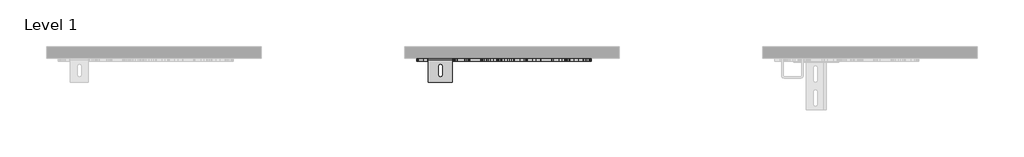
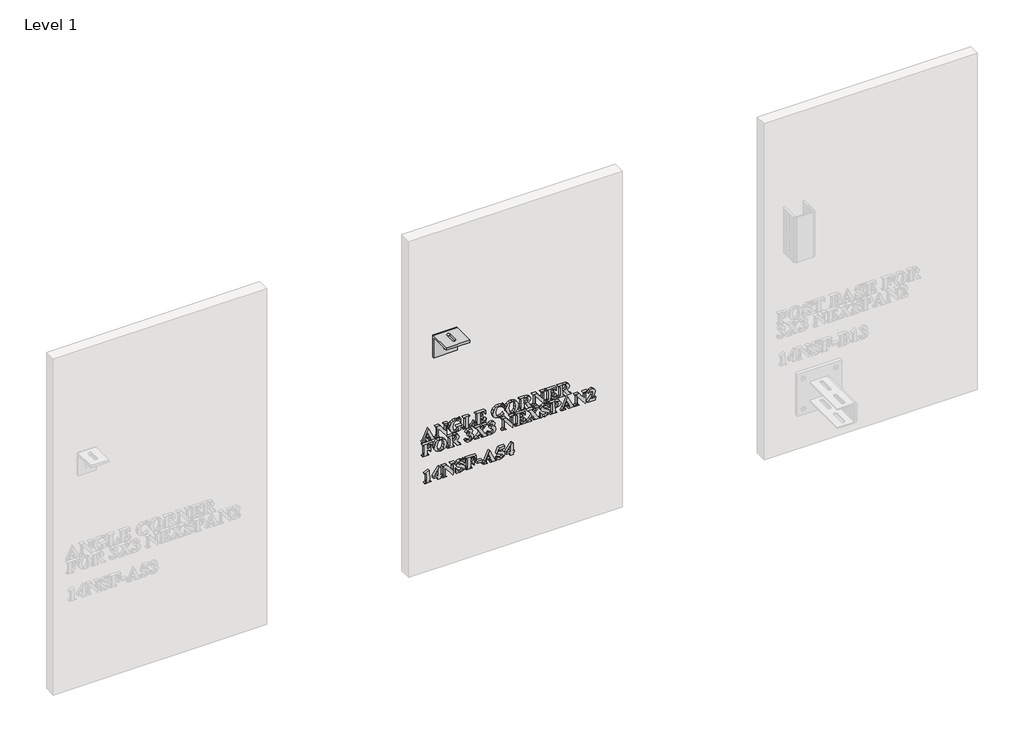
# One storey, part 10 of 21: 3 proxies.
"""IFC4 building model written with IfcOpenShell, lengths in millimetres."""

from ifc_helpers import new_model, si_unit, frame, origin, place, context, project, spatial, polyline, outline, extrude, transform, mapped, element, save
from components import generic_models_b58da347

model = new_model("IFC4")

# Units and contexts
model_context = context("Model", 3, world=origin())
ifc_project = project(units=[si_unit("LENGTHUNIT", "METRE", prefix="MILLI")], contexts=[model_context])

# Site, building, storey
site = spatial("IfcSite", under=ifc_project)
building = spatial("IfcBuilding", under=site)
storey = spatial("IfcBuildingStorey", under=building, Name="Level 1", Elevation=0.0)

# Proxies
placement = place(None, origin())
element("IfcBuildingElementProxy", 1, Name="2\"\" Arial", ObjectType="2\"\" Arial", at=placement, inside=storey, context=model_context, shape_type="SweptSolid", body=[
    extrude(outline(polyline([(615.3485426, 13058.1620487), (608.7003734, 13061.0844731), (604.559118, 13062.4695083), (602.869375, 13061.6246368), (602.0522042, 13056.3061015), (600.2793591, 13056.3061015), (600.2793591, 13081.7076479), (602.0522042, 13081.7076479), (603.4095388, 13078.0096038), (610.9025794, 13073.577491), (653.4647125, 13053.9238409), (612.066009, 13035.1012119), (604.3375124, 13030.6344732), (602.0522042, 13026.0153807), (600.2793591, 13026.0153807), (600.2793591, 13043.7853829), (602.0522042, 13043.7853829), (602.9386268, 13038.6607525), (606.0272554, 13036.8879074), (610.0300072, 13037.9682349), (615.3485426, 13040.3781962), (615.3485426, 13058.1620487)]), holes=[polyline([(618.8942328, 13056.6108092), (618.8942328, 13041.9848371), (635.2376487, 13049.3947756), (618.8942328, 13056.6108092)])]), frame((0.0, -15490.3579358, 0.0), z_axis=(0.0, 1.0, 0.0), x_axis=(0.0, 0.0, 1.0)), (0.0, 0.0, 1.0), 12.7),
    extrude(outline(polyline([(652.5782899, 13101.6798561), (652.5782899, 13083.2588873), (650.8054448, 13083.2588873), (650.2029545, 13086.9223056), (647.0519993, 13090.5718734), (609.1435847, 13090.5718734), (603.693471, 13089.0137088), (602.0522042, 13083.480493), (600.2793591, 13083.480493), (600.2793591, 13101.2089441), (602.0522042, 13100.1147663), (603.5134164, 13095.938885), (609.1435847, 13094.1175637), (642.5506348, 13094.1175637), (599.3929366, 13127.9401243), (599.3929366, 13129.5744659), (641.9412193, 13129.5744659), (647.3774826, 13130.2323577), (649.6627907, 13132.0675294), (650.8054448, 13136.6658464), (652.5782899, 13136.6658464), (652.5782899, 13118.9373952), (650.8054448, 13118.9373952), (648.5616877, 13124.7683936), (641.9412193, 13126.0287757), (621.5119494, 13126.0287757), (652.5782899, 13101.6798561)])), frame((0.0, -15490.3579358, 0.0), z_axis=(0.0, 1.0, 0.0), x_axis=(0.0, 0.0, 1.0)), (0.0, 0.0, 1.0), 12.7),
    extrude(outline(polyline([(653.4647125, 13191.6240449), (653.4647125, 13189.8511997), (650.6600161, 13188.2237833), (649.9190223, 13186.2916592), (651.2625064, 13181.9841996), (652.896848, 13176.7072153), (653.4647125, 13169.975944), (651.4564114, 13158.9285566), (645.4315081, 13149.9414092), (636.4945682, 13143.9736386), (625.7501572, 13141.9843817), (613.9773577, 13144.6020983), (606.6505212, 13150.287668), (601.3943125, 13158.6809816), (599.3929366, 13170.6546113), (600.4663389, 13181.5271379), (603.6449948, 13191.6240449), (615.3485426, 13191.6240449), (618.3402187, 13191.9703037), (620.002261, 13193.750074), (620.6670779, 13197.8290028), (622.439923, 13197.8290028), (622.439923, 13172.1227486), (620.6670779, 13173.5354846), (620.0576624, 13176.9288209), (618.6864775, 13178.7709178), (615.3485426, 13179.2141291), (603.6449948, 13179.2141291), (602.4607896, 13175.4329829), (602.0522042, 13171.8457416), (604.7114719, 13163.1269447), (613.0355337, 13157.8153345), (626.2210692, 13156.1671426), (638.3193521, 13157.6837562), (647.5090609, 13162.8499377), (650.8054448, 13171.9980954), (646.961972, 13182.5866899), (635.7362614, 13189.8511997), (635.7362614, 13191.6240449), (653.4647125, 13191.6240449)])), frame((0.0, -15490.3579358, 0.0), z_axis=(0.0, 1.0, 0.0), x_axis=(0.0, 0.0, 1.0)), (0.0, 0.0, 1.0), 12.7),
    extrude(outline(polyline([(619.7806553, 13250.1279336), (619.7806553, 13248.3550885), (610.1269597, 13244.5600919), (605.3416629, 13239.809421), (603.8250493, 13232.9396462), (603.8250493, 13228.6321866), (604.1713081, 13224.0200192), (605.7848742, 13222.2194734), (610.8333277, 13221.7624118), (643.7140644, 13221.7624118), (648.298531, 13222.1363713), (650.0436754, 13223.5491072), (650.8054448, 13226.8177904), (650.8054448, 13228.8537922), (652.5782899, 13228.8537922), (652.5782899, 13202.2611155), (650.8054448, 13202.2611155), (650.8054448, 13203.9370082), (650.0990768, 13207.2887935), (648.4439597, 13208.9439106), (643.7140644, 13209.352496), (609.1435847, 13209.352496), (604.559118, 13208.9508358), (602.8139736, 13207.4549977), (602.0522042, 13203.9370082), (602.0522042, 13202.2611155), (600.2793591, 13202.2611155), (600.2793591, 13248.3550885), (619.7806553, 13250.1279336)])), frame((0.0, -15490.3579358, 0.0), z_axis=(0.0, 1.0, 0.0), x_axis=(0.0, 0.0, 1.0)), (0.0, 0.0, 1.0), 12.7),
    extrude(outline(polyline([(649.0325997, 13274.0613426), (649.0325997, 13278.4934554), (648.3400821, 13286.5266598), (644.7320653, 13292.2191546), (636.6226839, 13295.3354839), (636.6226839, 13297.1083291), (652.5782899, 13297.1083291), (652.5782899, 13254.5600464), (650.8054448, 13254.5600464), (650.8054448, 13256.235939), (649.7805187, 13260.086337), (647.827619, 13261.4713722), (643.7140644, 13261.6514268), (609.1435847, 13261.6514268), (604.559118, 13261.2497666), (602.8139736, 13259.7539285), (602.0522042, 13256.235939), (602.0522042, 13254.5600464), (600.2793591, 13254.5600464), (600.2793591, 13298.3687111), (616.8859317, 13299.3105351), (606.4427659, 13293.1956045), (602.9386268, 13281.8729414), (602.9386268, 13278.8535645), (603.5549675, 13275.7372352), (605.1339076, 13274.4145266), (610.4039667, 13274.0613426), (625.0991907, 13274.0613426), (624.0950401, 13279.068245), (620.1753904, 13282.1014722), (612.6892749, 13283.8119907), (612.6892749, 13285.5848358), (640.1683741, 13285.5848358), (640.1683741, 13283.8119907), (630.9024884, 13281.3050769), (627.7584584, 13274.0613426), (649.0325997, 13274.0613426)])), frame((0.0, -15490.3579358, 0.0), z_axis=(0.0, 1.0, 0.0), x_axis=(0.0, 0.0, 1.0)), (0.0, 0.0, 1.0), 12.7),
    extrude(outline(polyline([(653.4647125, 13375.9999366), (653.4647125, 13374.2270915), (650.7708189, 13373.0775122), (649.9190223, 13370.986109), (651.2209554, 13366.5816969), (653.4647125, 13355.1967072), (649.8012943, 13341.394831), (639.5035572, 13331.0693933), (625.4731502, 13327.246696), (612.2460636, 13330.7162093), (602.710096, 13340.570735), (599.3929366, 13355.1828569), (601.4220132, 13366.1107849), (607.9663047, 13375.113514), (612.4676693, 13375.113514), (605.0785062, 13366.740976), (602.9386268, 13357.9944784), (605.854126, 13348.5208373), (614.4551948, 13343.1469006), (627.0797911, 13341.4294569), (639.8636664, 13343.7563161), (647.1420266, 13349.490362), (649.9190223, 13358.1052812), (646.2625292, 13368.1675623), (635.7362614, 13374.2270915), (635.7362614, 13375.9999366), (653.4647125, 13375.9999366)])), frame((0.0, -15490.3579358, 0.0), z_axis=(0.0, 1.0, 0.0), x_axis=(0.0, 0.0, 1.0)), (0.0, 0.0, 1.0), 12.7),
    extrude(outline(polyline([(653.4647125, 13411.11058), (651.8788471, 13400.5687305), (646.1794271, 13391.8239642), (637.4606302, 13385.9392957), (626.8166344, 13383.9777396), (617.1733265, 13385.4839654), (608.9358294, 13390.0026429), (601.7786598, 13399.2200524), (599.3929366, 13411.6091927), (601.8929252, 13423.9671697), (609.392891, 13433.1741915), (626.8581854, 13438.9359381), (637.4969874, 13437.0038139), (646.2002026, 13431.2074414), (651.884041, 13422.3189777), (653.4647125, 13411.11058)]), holes=[polyline([(650.8054448, 13411.5676416), (648.6863409, 13418.1811849), (641.4356814, 13422.9041551), (625.9440622, 13424.7531772), (611.8444034, 13422.938781), (603.9774032, 13417.869552), (602.0522042, 13411.4983899), (606.5120177, 13402.6757154), (626.2487699, 13398.1605005), (643.4924587, 13401.0829248), (648.9771983, 13405.5046499), (650.8054448, 13411.5676416)])]), frame((0.0, -15490.3579358, 0.0), z_axis=(0.0, 1.0, 0.0), x_axis=(0.0, 0.0, 1.0)), (0.0, 0.0, 1.0), 12.7),
    extrude(outline(polyline([(624.2127681, 13462.8693471), (624.2127681, 13466.3042345), (600.2793591, 13483.0908617), (600.2793591, 13499.2126719), (602.0522042, 13499.2126719), (603.3956884, 13495.9439887), (607.7723998, 13492.7999587), (625.4592998, 13480.3900429), (628.9911397, 13487.3429199), (638.395529, 13491.2348689), (646.5326111, 13488.4717236), (651.2902072, 13481.3387921), (652.5782899, 13467.5369159), (652.5782899, 13443.3680509), (650.8054448, 13443.3680509), (650.2029545, 13448.1533476), (648.5963136, 13449.9469683), (643.7140644, 13450.4594313), (609.1435847, 13450.4594313), (604.2751858, 13449.9469683), (602.6685449, 13448.1741232), (602.0522042, 13443.3680509), (600.2793591, 13443.3680509), (600.2793591, 13469.9607275), (602.0522042, 13469.9607275), (602.6546946, 13465.1754308), (604.2613354, 13463.3818101), (609.1435847, 13462.8693471), (624.2127681, 13462.8693471)]), holes=[polyline([(649.9190223, 13462.8693471), (649.9190223, 13466.9967521), (647.0450741, 13476.0271819), (638.160073, 13478.8249531), (631.4288018, 13477.3014143), (627.862336, 13473.1116827), (626.8720358, 13465.0715531), (626.8720358, 13462.8693471), (649.9190223, 13462.8693471)])]), frame((0.0, -15490.3579358, 0.0), z_axis=(0.0, 1.0, 0.0), x_axis=(0.0, 0.0, 1.0)), (0.0, 0.0, 1.0), 12.7),
    extrude(outline(polyline([(652.5782899, 13518.2984576), (652.5782899, 13499.8774888), (650.8054448, 13499.8774888), (650.2029545, 13503.540907), (647.0519993, 13507.1904749), (609.1435847, 13507.1904749), (603.693471, 13505.6323103), (602.0522042, 13500.0990945), (600.2793591, 13500.0990945), (600.2793591, 13517.8275456), (602.0522042, 13516.7333677), (603.5134164, 13512.5574865), (609.1435847, 13510.7361651), (642.5506348, 13510.7361651), (599.3929366, 13544.5587258), (599.3929366, 13546.1930674), (641.9412193, 13546.1930674), (647.3774826, 13546.8509591), (649.6627907, 13548.6861308), (650.8054448, 13553.2844478), (652.5782899, 13553.2844478), (652.5782899, 13535.5559967), (650.8054448, 13535.5559967), (648.5616877, 13541.3869951), (641.9412193, 13542.6473772), (621.5119494, 13542.6473772), (652.5782899, 13518.2984576)])), frame((0.0, -15490.3579358, 0.0), z_axis=(0.0, 1.0, 0.0), x_axis=(0.0, 0.0, 1.0)), (0.0, 0.0, 1.0), 12.7),
    extrude(outline(polyline([(649.0325997, 13577.2178569), (649.0325997, 13581.6499696), (648.3400821, 13589.6831741), (644.7320653, 13595.3756689), (636.6226839, 13598.4919982), (636.6226839, 13600.2648433), (652.5782899, 13600.2648433), (652.5782899, 13557.7165606), (650.8054448, 13557.7165606), (650.8054448, 13559.3924533), (649.7805187, 13563.2428513), (647.827619, 13564.6278865), (643.7140644, 13564.8079411), (609.1435847, 13564.8079411), (604.559118, 13564.4062809), (602.8139736, 13562.9104428), (602.0522042, 13559.3924533), (602.0522042, 13557.7165606), (600.2793591, 13557.7165606), (600.2793591, 13601.5252254), (616.8859317, 13602.4670494), (606.4427659, 13596.3521188), (602.9386268, 13585.0294556), (602.9386268, 13582.0100788), (603.5549675, 13578.8937495), (605.1339076, 13577.5710409), (610.4039667, 13577.2178569), (625.0991907, 13577.2178569), (624.0950401, 13582.2247593), (620.1753904, 13585.2579865), (612.6892749, 13586.968505), (612.6892749, 13588.7413501), (640.1683741, 13588.7413501), (640.1683741, 13586.968505), (630.9024884, 13584.4615912), (627.7584584, 13577.2178569), (649.0325997, 13577.2178569)])), frame((0.0, -15490.3579358, 0.0), z_axis=(0.0, 1.0, 0.0), x_axis=(0.0, 0.0, 1.0)), (0.0, 0.0, 1.0), 12.7),
    extrude(outline(polyline([(624.2127681, 13628.6303651), (624.2127681, 13632.0652525), (600.2793591, 13648.8518797), (600.2793591, 13664.9736899), (602.0522042, 13664.9736899), (603.3956884, 13661.7050068), (607.7723998, 13658.5609768), (625.4592998, 13646.151061), (628.9911397, 13653.1039379), (638.395529, 13656.9958869), (646.5326111, 13654.2327416), (651.2902072, 13647.0998101), (652.5782899, 13633.2979339), (652.5782899, 13609.1290689), (650.8054448, 13609.1290689), (650.2029545, 13613.9143657), (648.5963136, 13615.7079863), (643.7140644, 13616.2204493), (609.1435847, 13616.2204493), (604.2751858, 13615.7079863), (602.6685449, 13613.9351412), (602.0522042, 13609.1290689), (600.2793591, 13609.1290689), (600.2793591, 13635.7217456), (602.0522042, 13635.7217456), (602.6546946, 13630.9364488), (604.2613354, 13629.1428282), (609.1435847, 13628.6303651), (624.2127681, 13628.6303651)]), holes=[polyline([(649.9190223, 13628.6303651), (649.9190223, 13632.7577702), (647.0450741, 13641.7882), (638.160073, 13644.5859711), (631.4288018, 13643.0624324), (627.862336, 13638.8727008), (626.8720358, 13630.8325712), (626.8720358, 13628.6303651), (649.9190223, 13628.6303651)])]), frame((0.0, -15490.3579358, 0.0), z_axis=(0.0, 1.0, 0.0), x_axis=(0.0, 0.0, 1.0)), (0.0, 0.0, 1.0), 12.7),
    extrude(outline(polyline([(584.9362614, 13047.1371682), (584.9362614, 13051.569281), (584.3406962, 13060.1287988), (580.6288018, 13066.5415119), (572.5263456, 13069.2977321), (572.5263456, 13071.0705772), (588.4819516, 13071.0705772), (588.4819516, 13027.6358719), (586.7091065, 13027.6358719), (586.7091065, 13029.3117646), (586.0027385, 13032.6635499), (584.3476214, 13034.318667), (579.617726, 13034.7272524), (545.0472463, 13034.7272524), (540.4627797, 13034.3255922), (538.7176353, 13032.8297541), (537.9558659, 13029.3117646), (537.9558659, 13027.6358719), (536.1830208, 13027.6358719), (536.1830208, 13054.2285486), (537.9558659, 13054.2285486), (537.9558659, 13052.5665063), (538.6622338, 13049.2216462), (540.317351, 13047.5596039), (545.0472463, 13047.1371682), (561.0028523, 13047.1371682), (561.0028523, 13048.9100133), (558.5859658, 13055.8213392), (548.5929366, 13059.547084), (548.5929366, 13061.3199291), (576.9584584, 13061.3199291), (576.9584584, 13059.547084), (569.5762205, 13057.6911367), (565.6981218, 13054.2077731), (564.5485426, 13048.9100133), (564.5485426, 13047.1371682), (584.9362614, 13047.1371682)])), frame((0.0, -15490.3579358, 0.0), z_axis=(0.0, 1.0, 0.0), x_axis=(0.0, 0.0, 1.0)), (0.0, 0.0, 1.0), 12.7),
    extrude(outline(polyline([(589.3683741, 13103.521953), (587.7825088, 13092.9801035), (582.0830888, 13084.2353372), (573.3642919, 13078.3506687), (562.720296, 13076.3891125), (553.0769882, 13077.8953384), (544.839491, 13082.4140158), (537.6823214, 13091.6314254), (535.2965982, 13104.0205657), (537.7965868, 13116.3785426), (545.2965527, 13125.5855644), (562.7618471, 13131.347311), (573.4006491, 13129.4151869), (582.1038643, 13123.6188144), (587.7877027, 13114.7303507), (589.3683741, 13103.521953)]), holes=[polyline([(586.7091065, 13103.9790146), (584.5900026, 13110.5925579), (577.339343, 13115.3155281), (561.8477238, 13117.1645501), (547.7480651, 13115.350154), (539.8810649, 13110.280925), (537.9558659, 13103.9097628), (542.4156794, 13095.0870883), (562.1524316, 13090.5718734), (579.3961204, 13093.4942978), (584.88086, 13097.9160228), (586.7091065, 13103.9790146)])]), frame((0.0, -15490.3579358, 0.0), z_axis=(0.0, 1.0, 0.0), x_axis=(0.0, 0.0, 1.0)), (0.0, 0.0, 1.0), 12.7),
    extrude(outline(polyline([(560.1164298, 13155.28072), (560.1164298, 13158.7156075), (536.1830208, 13175.5022346), (536.1830208, 13191.6240449), (537.9558659, 13191.6240449), (539.2993501, 13188.3553617), (543.6760614, 13185.2113317), (561.3629615, 13172.8014159), (564.8948014, 13179.7542928), (574.2991907, 13183.6462418), (582.4362727, 13180.8830965), (587.1938688, 13173.750165), (588.4819516, 13159.9482888), (588.4819516, 13135.7794238), (586.7091065, 13135.7794238), (586.1066161, 13140.5647206), (584.4999753, 13142.3583412), (579.617726, 13142.8708043), (545.0472463, 13142.8708043), (540.1788474, 13142.3583412), (538.5722066, 13140.5854961), (537.9558659, 13135.7794238), (536.1830208, 13135.7794238), (536.1830208, 13162.3721005), (537.9558659, 13162.3721005), (538.5583562, 13157.5868037), (540.1649971, 13155.7931831), (545.0472463, 13155.28072), (560.1164298, 13155.28072)]), holes=[polyline([(585.8226839, 13155.28072), (585.8226839, 13159.4081251), (582.9487358, 13168.4385549), (574.0637347, 13171.2363261), (567.3324634, 13169.7127873), (563.7659977, 13165.5230557), (562.7756975, 13157.4829261), (562.7756975, 13155.28072), (585.8226839, 13155.28072)])]), frame((0.0, -15490.3579358, 0.0), z_axis=(0.0, 1.0, 0.0), x_axis=(0.0, 0.0, 1.0)), (0.0, 0.0, 1.0), 12.7),
    extrude(outline(polyline([(564.5485426, 13220.8759892), (558.3782106, 13232.7665168), (548.6206373, 13236.8315952), (542.8796662, 13234.7263417), (540.6151335, 13229.6848134), (543.7314628, 13222.4272287), (547.1524999, 13217.9258641), (547.706514, 13215.4605014), (546.2176011, 13212.4341994), (542.6234346, 13211.1253411), (537.9004645, 13213.3829485), (535.2965982, 13223.3275016), (536.8114805, 13232.5033601), (541.3561274, 13239.6155161), (548.0648919, 13244.1757446), (556.0721269, 13245.6958208), (564.6177943, 13242.8564985), (570.3518402, 13234.6155388), (574.5554222, 13241.0005513), (579.5207736, 13243.0365531), (586.4182491, 13239.4008356), (589.3683741, 13230.1695757), (586.9237869, 13220.2180975), (579.105263, 13213.7846088), (584.0498388, 13223.1751477), (581.6883537, 13229.1238741), (576.0304847, 13231.5130599), (571.3282901, 13230.2319023), (567.8795523, 13227.1917499), (564.5485426, 13220.8759892)])), frame((0.0, -15490.3579358, 0.0), z_axis=(0.0, 1.0, 0.0), x_axis=(0.0, 0.0, 1.0)), (0.0, 0.0, 1.0), 12.7),
    extrude(outline(polyline([(566.5845444, 13283.2302759), (578.4681468, 13292.7177673), (584.2021927, 13297.7315949), (586.1481672, 13300.6955703), (586.7091065, 13304.3520634), (588.4819516, 13304.3520634), (588.4819516, 13284.9200189), (586.7091065, 13284.9200189), (586.2243441, 13288.382607), (584.88086, 13290.1000507), (583.0110624, 13290.6956159), (575.9473826, 13286.457408), (569.5069687, 13281.3050769), (579.146814, 13274.9754659), (584.3406962, 13272.0530415), (586.0304392, 13272.939464), (586.7091065, 13277.3577265), (588.4819516, 13277.3577265), (588.4819516, 13251.8176766), (586.7091065, 13251.8176766), (585.9334867, 13254.5877471), (584.2021927, 13256.6237489), (579.0775623, 13260.363344), (559.4377625, 13273.2718725), (546.8616425, 13263.2026663), (539.7425613, 13256.000483), (537.9558659, 13250.6126959), (536.1830208, 13250.6126959), (536.1830208, 13270.9588636), (537.9558659, 13270.9588636), (538.1774715, 13267.6486294), (539.4655543, 13264.9131848), (541.4046036, 13263.9921364), (547.000146, 13267.5655273), (556.5291885, 13275.1832211), (545.781315, 13282.2469009), (540.4627797, 13285.2108763), (538.8422884, 13284.3244538), (537.9558659, 13280.404804), (536.1830208, 13280.404804), (536.1830208, 13305.6955476), (537.9558659, 13305.6955476), (539.2993501, 13302.0944559), (545.6428115, 13296.9836759), (566.5845444, 13283.2302759)])), frame((0.0, -15490.3579358, 0.0), z_axis=(0.0, 1.0, 0.0), x_axis=(0.0, 0.0, 1.0)), (0.0, 0.0, 1.0), 12.7),
    extrude(outline(polyline([(564.5485426, 13316.6096253), (558.3782106, 13328.5001529), (548.6206373, 13332.5652313), (542.8796662, 13330.4599777), (540.6151335, 13325.4184495), (543.7314628, 13318.1608648), (547.1524999, 13313.6595002), (547.706514, 13311.1941375), (546.2176011, 13308.1678355), (542.6234346, 13306.8589772), (537.9004645, 13309.1165846), (535.2965982, 13319.0611377), (536.8114805, 13328.2369962), (541.3561274, 13335.3491522), (548.0648919, 13339.9093807), (556.0721269, 13341.4294569), (564.6177943, 13338.5901346), (570.3518402, 13330.3491749), (574.5554222, 13336.7341874), (579.5207736, 13338.7701892), (586.4182491, 13335.1344717), (589.3683741, 13325.9032118), (586.9237869, 13315.9517336), (579.105263, 13309.5182448), (584.0498388, 13318.9087838), (581.6883537, 13324.8575102), (576.0304847, 13327.246696), (571.3282901, 13325.9655384), (567.8795523, 13322.925386), (564.5485426, 13316.6096253)])), frame((0.0, -15490.3579358, 0.0), z_axis=(0.0, 1.0, 0.0), x_axis=(0.0, 0.0, 1.0)), (0.0, 0.0, 1.0), 12.7),
    extrude(outline(polyline([(588.4819516, 13385.3350741), (588.4819516, 13366.9141054), (586.7091065, 13366.9141054), (586.1066161, 13370.5775236), (582.955661, 13374.2270915), (545.0472463, 13374.2270915), (539.5971326, 13372.6689268), (537.9558659, 13367.135711), (536.1830208, 13367.135711), (536.1830208, 13384.8641621), (537.9558659, 13383.7699843), (539.4170781, 13379.594103), (545.0472463, 13377.7727817), (578.4542964, 13377.7727817), (535.2965982, 13411.5953424), (535.2965982, 13413.2296839), (577.8448809, 13413.2296839), (583.2811442, 13413.8875757), (585.5664524, 13415.7227474), (586.7091065, 13420.3210644), (588.4819516, 13420.3210644), (588.4819516, 13402.5926133), (586.7091065, 13402.5926133), (584.4653494, 13408.4236116), (577.8448809, 13409.6839937), (557.4156111, 13409.6839937), (588.4819516, 13385.3350741)])), frame((0.0, -15490.3579358, 0.0), z_axis=(0.0, 1.0, 0.0), x_axis=(0.0, 0.0, 1.0)), (0.0, 0.0, 1.0), 12.7),
    extrude(outline(polyline([(584.9362614, 13444.2544734), (584.9362614, 13448.6865862), (584.2437437, 13456.7197906), (580.6357269, 13462.4122855), (572.5263456, 13465.5286148), (572.5263456, 13467.3014599), (588.4819516, 13467.3014599), (588.4819516, 13424.7531772), (586.7091065, 13424.7531772), (586.7091065, 13426.4290698), (585.6841804, 13430.2794678), (583.7312807, 13431.664503), (579.617726, 13431.8445576), (545.0472463, 13431.8445576), (540.4627797, 13431.4428974), (538.7176353, 13429.9470593), (537.9558659, 13426.4290698), (537.9558659, 13424.7531772), (536.1830208, 13424.7531772), (536.1830208, 13468.561842), (552.7895933, 13469.5036659), (542.3464276, 13463.3887353), (538.8422884, 13452.0660722), (538.8422884, 13449.0466954), (539.4586291, 13445.9303661), (541.0375693, 13444.6076574), (546.3076284, 13444.2544734), (561.0028523, 13444.2544734), (559.9987018, 13449.2613758), (556.079052, 13452.294603), (548.5929366, 13454.0051215), (548.5929366, 13455.7779666), (576.0720358, 13455.7779666), (576.0720358, 13454.0051215), (566.80615, 13451.4982077), (563.66212, 13444.2544734), (584.9362614, 13444.2544734)])), frame((0.0, -15490.3579358, 0.0), z_axis=(0.0, 1.0, 0.0), x_axis=(0.0, 0.0, 1.0)), (0.0, 0.0, 1.0), 12.7),
    extrude(outline(polyline([(566.5845444, 13507.4951827), (578.4681468, 13516.9826741), (584.2021927, 13521.9965017), (586.1481672, 13524.9604771), (586.7091065, 13528.6169701), (588.4819516, 13528.6169701), (588.4819516, 13509.1849257), (586.7091065, 13509.1849257), (586.2243441, 13512.6475138), (584.88086, 13514.3649575), (583.0110624, 13514.9605226), (575.9473826, 13510.7223148), (569.5069687, 13505.5699837), (579.146814, 13499.2403726), (584.3406962, 13496.3179482), (586.0304392, 13497.2043708), (586.7091065, 13501.6226332), (588.4819516, 13501.6226332), (588.4819516, 13476.0825833), (586.7091065, 13476.0825833), (585.9334867, 13478.8526538), (584.2021927, 13480.8886556), (579.0775623, 13484.6282508), (559.4377625, 13497.5367793), (546.8616425, 13487.467573), (539.7425613, 13480.2653898), (537.9558659, 13474.8776027), (536.1830208, 13474.8776027), (536.1830208, 13495.2237704), (537.9558659, 13495.2237704), (538.1774715, 13491.9135362), (539.4655543, 13489.1780916), (541.4046036, 13488.2570431), (547.000146, 13491.8304341), (556.5291885, 13499.4481279), (545.781315, 13506.5118076), (540.4627797, 13509.4757831), (538.8422884, 13508.5893605), (537.9558659, 13504.6697108), (536.1830208, 13504.6697108), (536.1830208, 13529.9604543), (537.9558659, 13529.9604543), (539.2993501, 13526.3593627), (545.6428115, 13521.2485826), (566.5845444, 13507.4951827)])), frame((0.0, -15490.3579358, 0.0), z_axis=(0.0, 1.0, 0.0), x_axis=(0.0, 0.0, 1.0)), (0.0, 0.0, 1.0), 12.7),
    extrude(outline(polyline([(589.3683741, 13569.2400539), (589.3683741, 13567.4672087), (586.4320994, 13566.3591806), (585.8226839, 13564.724839), (587.0622905, 13560.9644683), (588.7589586, 13556.4146275), (589.3683741, 13551.3315481), (585.040139, 13539.3994695), (574.548497, 13534.6695742), (567.9418789, 13536.3039157), (562.5056156, 13540.9853349), (556.5984403, 13551.8301608), (552.5541373, 13559.5863582), (549.2854542, 13562.8481162), (545.7259136, 13563.9215185), (540.2896503, 13561.2553257), (537.9558659, 13554.0877683), (542.2702507, 13543.2360171), (554.7978944, 13536.4424193), (554.7978944, 13534.6695742), (535.2965982, 13534.6695742), (535.2965982, 13536.4424193), (537.9697162, 13538.2637406), (538.8422884, 13540.4036201), (537.9835666, 13543.464548), (535.8575375, 13549.0116141), (535.2965982, 13553.6999584), (539.9780173, 13566.7608408), (551.1691021, 13571.8993215), (560.2687837, 13569.2816049), (568.7174987, 13556.5946821), (573.2050128, 13547.4534495), (576.7645534, 13543.5337997), (579.8254813, 13542.6473772), (584.6246284, 13545.0711888), (586.7091065, 13551.6501063), (582.5747763, 13561.6639111), (571.639923, 13567.4672087), (571.639923, 13569.2400539), (589.3683741, 13569.2400539)])), frame((0.0, -15490.3579358, 0.0), z_axis=(0.0, 1.0, 0.0), x_axis=(0.0, 0.0, 1.0)), (0.0, 0.0, 1.0), 12.7),
    extrude(outline(polyline([(560.1164298, 13594.946308), (561.030553, 13608.2010953), (565.9266526, 13617.3354027), (574.5623474, 13620.6525621), (584.5069004, 13615.6041087), (588.4819516, 13598.9490598), (588.4819516, 13575.4450118), (586.7091065, 13575.4450118), (586.1066161, 13580.2303085), (584.4999753, 13582.0239292), (579.617726, 13582.5363922), (545.0472463, 13582.5363922), (540.1788474, 13582.0239292), (538.5722066, 13580.2510841), (537.9558659, 13575.4450118), (536.1830208, 13575.4450118), (536.1830208, 13602.0376884), (537.9558659, 13602.0376884), (538.5583562, 13597.266242), (540.1649971, 13595.458771), (545.0472463, 13594.946308), (560.1164298, 13594.946308)]), holes=[polyline([(585.8226839, 13594.946308), (585.8226839, 13596.7330035), (583.0664638, 13605.3548479), (574.3822928, 13608.2426463), (565.5457679, 13605.3548479), (562.6925953, 13597.1346637), (562.7756975, 13594.946308), (585.8226839, 13594.946308)])]), frame((0.0, -15490.3579358, 0.0), z_axis=(0.0, 1.0, 0.0), x_axis=(0.0, 0.0, 1.0)), (0.0, 0.0, 1.0), 12.7),
    extrude(outline(polyline([(551.2522042, 13654.7244291), (544.604035, 13657.6468535), (540.4627797, 13659.0318887), (538.7730367, 13658.1870172), (537.9558659, 13652.8684819), (536.1830208, 13652.8684819), (536.1830208, 13678.2700283), (537.9558659, 13678.2700283), (539.3132004, 13674.5719842), (546.8062411, 13670.1398714), (589.3683741, 13650.4862213), (547.9696707, 13631.6635923), (540.241174, 13627.1968537), (537.9558659, 13622.5777611), (536.1830208, 13622.5777611), (536.1830208, 13640.3477633), (537.9558659, 13640.3477633), (538.8422884, 13635.2231329), (541.930917, 13633.4502878), (545.9336689, 13634.5306153), (551.2522042, 13636.9405766), (551.2522042, 13654.7244291)]), holes=[polyline([(554.7978944, 13653.1731897), (554.7978944, 13638.5472175), (571.1413103, 13645.957156), (554.7978944, 13653.1731897)])]), frame((0.0, -15490.3579358, 0.0), z_axis=(0.0, 1.0, 0.0), x_axis=(0.0, 0.0, 1.0)), (0.0, 0.0, 1.0), 12.7),
    extrude(outline(polyline([(588.4819516, 13698.2422365), (588.4819516, 13679.8212678), (586.7091065, 13679.8212678), (586.1066161, 13683.484686), (582.955661, 13687.1342539), (545.0472463, 13687.1342539), (539.5971326, 13685.5760892), (537.9558659, 13680.0428734), (536.1830208, 13680.0428734), (536.1830208, 13697.7713245), (537.9558659, 13696.6771467), (539.4170781, 13692.5012654), (545.0472463, 13690.6799441), (578.4542964, 13690.6799441), (535.2965982, 13724.5025047), (535.2965982, 13726.1368463), (577.8448809, 13726.1368463), (583.2811442, 13726.7947381), (585.5664524, 13728.6299098), (586.7091065, 13733.2282268), (588.4819516, 13733.2282268), (588.4819516, 13715.4997757), (586.7091065, 13715.4997757), (584.4653494, 13721.330774), (577.8448809, 13722.5911561), (557.4156111, 13722.5911561), (588.4819516, 13698.2422365)])), frame((0.0, -15490.3579358, 0.0), z_axis=(0.0, 1.0, 0.0), x_axis=(0.0, 0.0, 1.0)), (0.0, 0.0, 1.0), 12.7),
    extrude(outline(polyline([(536.1830208, 13767.3139441), (551.2522042, 13768.9344354), (548.1635756, 13766.836107), (547.1247992, 13764.8001052), (546.8200914, 13759.446944), (546.8200914, 13748.2835599), (566.3906394, 13765.0009353), (576.6260499, 13767.7987065), (582.5609259, 13765.9081334), (587.5470528, 13760.6796253), (589.3683741, 13753.2973875), (585.864235, 13743.3043582), (574.548497, 13738.2836054), (579.0152357, 13742.4525615), (580.5041486, 13748.0342535), (577.8241054, 13754.5092933), (571.0997593, 13757.1616358), (559.7286199, 13754.0591569), (536.1830208, 13735.8874945), (536.1830208, 13767.3139441)])), frame((0.0, -15490.3579358, 0.0), z_axis=(0.0, 1.0, 0.0), x_axis=(0.0, 0.0, 1.0)), (0.0, 0.0, 1.0), 12.7),
])
element("IfcBuildingElementProxy", 2, Name="2\"\" Arial", ObjectType="2\"\" Arial", at=placement, inside=storey, context=model_context, shape_type="SweptSolid", body=[
    extrude(outline(polyline([(463.8692305, 13056.4026674), (455.0050049, 13036.6451396), (453.2321598, 13037.3099565), (454.4648412, 13041.8667225), (453.827725, 13043.9442753), (452.3111114, 13045.1769567), (447.9136245, 13045.5093652), (421.3209478, 13045.5093652), (415.2544934, 13044.9899769), (413.2046413, 13043.0024514), (412.4567222, 13036.6451396), (410.6838771, 13036.6451396), (410.6838771, 13065.0106614), (412.4567222, 13063.77798), (413.273893, 13059.3043162), (415.3791466, 13057.4691445), (421.3209478, 13057.0328584), (463.8692305, 13056.4026674)])), frame((0.0, -15490.3579358, 0.0), z_axis=(0.0, 1.0, 0.0), x_axis=(0.0, 0.0, 1.0)), (0.0, 0.0, 1.0), 12.7),
    extrude(outline(polyline([(430.1851733, 13073.874887), (422.2073703, 13073.874887), (422.2073703, 13092.4897607), (410.6838771, 13092.4897607), (410.6838771, 13104.0132539), (422.2073703, 13104.0132539), (422.2073703, 13108.4453667), (430.1851733, 13108.4453667), (430.1851733, 13104.0132539), (463.8692305, 13104.0132539), (463.8692305, 13098.9024738), (430.1851733, 13073.874887)]), holes=[polyline([(430.1851733, 13076.5618553), (451.6116686, 13092.4897607), (430.1851733, 13092.4897607), (430.1851733, 13076.5618553)])]), frame((0.0, -15490.3579358, 0.0), z_axis=(0.0, 1.0, 0.0), x_axis=(0.0, 0.0, 1.0)), (0.0, 0.0, 1.0), 12.7),
    extrude(outline(polyline([(462.9828079, 13131.0768426), (462.9828079, 13112.6558738), (461.2099628, 13112.6558738), (460.6074725, 13116.319292), (457.4565173, 13119.9688599), (419.5481027, 13119.9688599), (414.097989, 13118.4106952), (412.4567222, 13112.8774794), (410.6838771, 13112.8774794), (410.6838771, 13130.6059306), (412.4567222, 13129.5117527), (413.9179344, 13125.3358715), (419.5481027, 13123.5145501), (452.9551528, 13123.5145501), (409.7974546, 13157.3371108), (409.7974546, 13158.9714524), (452.3457373, 13158.9714524), (457.7820006, 13159.6293441), (460.0673087, 13161.4645158), (461.2099628, 13166.0628328), (462.9828079, 13166.0628328), (462.9828079, 13148.3343817), (461.2099628, 13148.3343817), (458.9662057, 13154.1653801), (452.3457373, 13155.4257622), (431.9164674, 13155.4257622), (462.9828079, 13131.0768426)])), frame((0.0, -15490.3579358, 0.0), z_axis=(0.0, 1.0, 0.0), x_axis=(0.0, 0.0, 1.0)), (0.0, 0.0, 1.0), 12.7),
    extrude(outline(polyline([(463.8692305, 13206.8382704), (463.8692305, 13205.0654253), (460.9329558, 13203.9573971), (460.3235403, 13202.3230555), (461.5631468, 13198.5626848), (463.259815, 13194.0128441), (463.8692305, 13188.9297647), (459.5409954, 13176.9976861), (449.0493534, 13172.2677907), (442.4427353, 13173.9021323), (437.0064719, 13178.5835514), (431.0992966, 13189.4283774), (427.0549937, 13197.1845748), (423.7863105, 13200.4463328), (420.2267699, 13201.5197351), (414.7905066, 13198.8535422), (412.4567222, 13191.6859848), (416.771107, 13180.8342337), (429.2987508, 13174.0406358), (429.2987508, 13172.2677907), (409.7974546, 13172.2677907), (409.7974546, 13174.0406358), (412.4705726, 13175.8619572), (413.3431448, 13178.0018366), (412.4844229, 13181.0627645), (410.3583938, 13186.6098307), (409.7974546, 13191.298175), (414.4788737, 13204.3590573), (425.6699585, 13209.4975381), (434.76964, 13206.8798215), (443.218355, 13194.1928986), (447.7058692, 13185.051666), (451.2654098, 13181.1320163), (454.3263377, 13180.2455937), (459.1254848, 13182.6694054), (461.2099628, 13189.2483228), (457.0756326, 13199.2621276), (446.1407794, 13205.0654253), (446.1407794, 13206.8382704), (463.8692305, 13206.8382704)])), frame((0.0, -15490.3579358, 0.0), z_axis=(0.0, 1.0, 0.0), x_axis=(0.0, 0.0, 1.0)), (0.0, 0.0, 1.0), 12.7),
    extrude(outline(polyline([(459.4371177, 13233.4309471), (459.4371177, 13237.8630599), (458.8415526, 13246.4225777), (455.1296581, 13252.8352909), (447.0272019, 13255.591511), (447.0272019, 13257.3643561), (462.9828079, 13257.3643561), (462.9828079, 13213.9296509), (461.2099628, 13213.9296509), (461.2099628, 13215.6055435), (460.5035948, 13218.9573288), (458.8484777, 13220.6124459), (454.1185824, 13221.0210313), (419.5481027, 13221.0210313), (414.963636, 13220.6193711), (413.2184916, 13219.123533), (412.4567222, 13215.6055435), (412.4567222, 13213.9296509), (410.6838771, 13213.9296509), (410.6838771, 13240.5223276), (412.4567222, 13240.5223276), (412.4567222, 13238.8602853), (413.1630902, 13235.5154252), (414.8182073, 13233.8533829), (419.5481027, 13233.4309471), (435.5037087, 13233.4309471), (435.5037087, 13235.2037922), (433.0868222, 13242.1151181), (423.0937929, 13245.8408629), (423.0937929, 13247.613708), (451.4593147, 13247.613708), (451.4593147, 13245.8408629), (444.0770768, 13243.9849157), (440.1989782, 13240.501552), (439.0493989, 13235.2037922), (439.0493989, 13233.4309471), (459.4371177, 13233.4309471)])), frame((0.0, -15490.3579358, 0.0), z_axis=(0.0, 1.0, 0.0), x_axis=(0.0, 0.0, 1.0)), (0.0, 0.0, 1.0), 12.7),
    extrude(outline(polyline([(13283.0706103, -15490.3579358), (13260.9100464, -15490.3579358), (13260.9100464, -15477.6579358), (13283.0706103, -15477.6579358), (13283.0706103, -15490.3579358)])), frame((0.0, 0.0, 424.866638), z_axis=(0.0, 0.0, 1.0), x_axis=(1.0, 0.0, 0.0)), (0.0, 0.0, 1.0), 7.977803),
    extrude(outline(polyline([(425.7530606, 13318.9153224), (419.1048914, 13321.8377468), (414.963636, 13323.222782), (413.273893, 13322.3779105), (412.4567222, 13317.0593752), (410.6838771, 13317.0593752), (410.6838771, 13342.4609215), (412.4567222, 13342.4609215), (413.8140568, 13338.7628774), (421.3070974, 13334.3307647), (463.8692305, 13314.6771145), (422.470527, 13295.8544856), (414.7420304, 13291.3877469), (412.4567222, 13286.7686544), (410.6838771, 13286.7686544), (410.6838771, 13304.5386566), (412.4567222, 13304.5386566), (413.3431448, 13299.4140261), (416.4317734, 13297.641181), (420.4345252, 13298.7215085), (425.7530606, 13301.1314699), (425.7530606, 13318.9153224)]), holes=[polyline([(429.2987508, 13317.3640829), (429.2987508, 13302.7381107), (445.6421667, 13310.1480493), (429.2987508, 13317.3640829)])]), frame((0.0, -15490.3579358, 0.0), z_axis=(0.0, 1.0, 0.0), x_axis=(0.0, 0.0, 1.0)), (0.0, 0.0, 1.0), 12.7),
    extrude(outline(polyline([(462.9828079, 13354.8708373), (436.3901312, 13345.1201892), (436.4316823, 13348.2919199), (432.2073248, 13365.7018129), (427.3527763, 13370.8749196), (421.2378457, 13372.5992885), (415.6630788, 13370.3278307), (413.3431448, 13364.8153904), (413.8417575, 13362.0591702), (416.2655691, 13357.9040645), (419.7697083, 13352.5024271), (420.4345252, 13349.3860978), (419.1395173, 13346.4013468), (416.1547663, 13345.1201892), (412.2351166, 13347.5717016), (409.7974546, 13357.6409078), (412.1104634, 13368.8112171), (419.0633403, 13376.7959452), (428.5646821, 13379.6906689), (435.5210216, 13378.142892), (441.2377546, 13373.4995614), (445.9953507, 13364.3721791), (447.9136245, 13352.0315151), (452.3457373, 13353.6520063), (452.3457373, 13376.1449787), (462.9828079, 13379.6906689), (462.9828079, 13354.8708373)])), frame((0.0, -15490.3579358, 0.0), z_axis=(0.0, 1.0, 0.0), x_axis=(0.0, 0.0, 1.0)), (0.0, 0.0, 1.0), 12.7),
    extrude(outline(polyline([(430.1851733, 13385.0092042), (422.2073703, 13385.0092042), (422.2073703, 13403.6240779), (410.6838771, 13403.6240779), (410.6838771, 13415.1475712), (422.2073703, 13415.1475712), (422.2073703, 13419.5796839), (430.1851733, 13419.5796839), (430.1851733, 13415.1475712), (463.8692305, 13415.1475712), (463.8692305, 13410.0367911), (430.1851733, 13385.0092042)]), holes=[polyline([(430.1851733, 13387.6961726), (451.6116686, 13403.6240779), (430.1851733, 13403.6240779), (430.1851733, 13387.6961726)])]), frame((0.0, -15490.3579358, 0.0), z_axis=(0.0, 1.0, 0.0), x_axis=(0.0, 0.0, 1.0)), (0.0, 0.0, 1.0), 12.7),
])
generic_models_shape = generic_models_b58da347(model_context)
element("IfcBuildingElementProxy", 3, Name="14NSF-A54 : 14NSF-A54", ObjectType="14NSF-A54 : 14NSF-A54", at=placement, inside=storey, context=model_context, shape_type="MappedRepresentation", body=[
    mapped(generic_models_shape, transform((13127.580478, -15477.6579358, 1066.8), x_axis=(1.0, 0.0, 0.0), y_axis=(0.0, 0.0, 1.0), z_axis=(0.0, -1.0, 0.0))),
])

save(model, "model.ifc")
